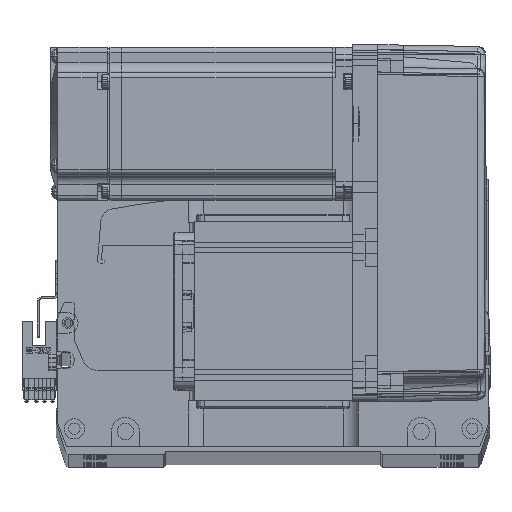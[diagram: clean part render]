
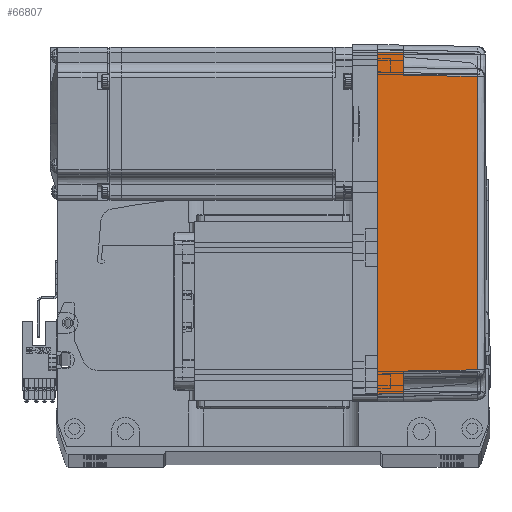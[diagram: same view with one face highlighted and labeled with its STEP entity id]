
A CAD part, top view. The second image highlights one B-rep face of the part: STEP entity #66807.
In plain terms, the highlighted planar face has unit normal (0.018, 0, 1) as drawn and (0, -1, 0.017) by its records, which use the part's own axes.
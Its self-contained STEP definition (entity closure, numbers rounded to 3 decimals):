
#310 = CARTESIAN_POINT ( 'NONE',  ( -57.495, -35.32, 38.985 ) ) ;
#1506 = CARTESIAN_POINT ( 'NONE',  ( 70., -36., 0. ) ) ;
#1602 = DIRECTION ( 'NONE',  ( -0.017, 0.017, 1. ) ) ;
#4483 = LINE ( 'NONE', #36142, #18944 ) ;
#6004 = ORIENTED_EDGE ( 'NONE', *, *, #35946, .T. ) ;
#6329 = VECTOR ( 'NONE', #57676, 1000. ) ;
#7126 = LINE ( 'NONE', #52147, #6329 ) ;
#7457 = VERTEX_POINT ( 'NONE', #53271 ) ;
#8051 = ORIENTED_EDGE ( 'NONE', *, *, #36886, .T. ) ;
#8132 = CARTESIAN_POINT ( 'NONE',  ( 70., -35.825, 10. ) ) ;
#9614 = ORIENTED_EDGE ( 'NONE', *, *, #48913, .T. ) ;
#10385 = VERTEX_POINT ( 'NONE', #53844 ) ;
#11717 = VERTEX_POINT ( 'NONE', #13612 ) ;
#13612 = CARTESIAN_POINT ( 'NONE',  ( 58., -35.825, 10. ) ) ;
#14295 = CARTESIAN_POINT ( 'NONE',  ( -66.959, -35.958, 2.39 ) ) ;
#14522 = DIRECTION ( 'NONE',  ( 0.017, 0.017, 1. ) ) ;
#16289 = FACE_OUTER_BOUND ( 'NONE', #66277, .T. ) ;
#17591 = CARTESIAN_POINT ( 'NONE',  ( 66.826, -35.825, 10. ) ) ;
#18944 = VECTOR ( 'NONE', #30188, 1000. ) ;
#19530 = DIRECTION ( 'NONE',  ( -1., 0., 0. ) ) ;
#20184 = ORIENTED_EDGE ( 'NONE', *, *, #25020, .T. ) ;
#23658 = DIRECTION ( 'NONE',  ( 0., -1., 0.017 ) ) ;
#24600 = VERTEX_POINT ( 'NONE', #310 ) ;
#25020 = EDGE_CURVE ( 'NONE', #24600, #29793, #65543, .T. ) ;
#25084 = CARTESIAN_POINT ( 'NONE',  ( 0., -36., 0. ) ) ;
#25555 = VECTOR ( 'NONE', #41835, 1000. ) ;
#25682 = CARTESIAN_POINT ( 'NONE',  ( 57.495, -35.32, 38.985 ) ) ;
#28511 = LINE ( 'NONE', #8132, #51639 ) ;
#29085 = VECTOR ( 'NONE', #1602, 1000. ) ;
#29793 = VERTEX_POINT ( 'NONE', #39212 ) ;
#30188 = DIRECTION ( 'NONE',  ( -0.017, 0.017, 1. ) ) ;
#32765 = ORIENTED_EDGE ( 'NONE', *, *, #38597, .T. ) ;
#34201 = PLANE ( 'NONE',  #43454 ) ;
#34679 = DIRECTION ( 'NONE',  ( 0., -0.017, -1. ) ) ;
#34986 = ORIENTED_EDGE ( 'NONE', *, *, #35474, .T. ) ;
#35474 = EDGE_CURVE ( 'NONE', #29793, #45737, #7126, .T. ) ;
#35946 = EDGE_CURVE ( 'NONE', #38961, #11717, #28511, .T. ) ;
#36062 = LINE ( 'NONE', #14295, #60935 ) ;
#36142 = CARTESIAN_POINT ( 'NONE',  ( 67., -36., 0. ) ) ;
#36886 = EDGE_CURVE ( 'NONE', #7457, #38961, #4483, .T. ) ;
#37447 = EDGE_CURVE ( 'NONE', #10385, #45737, #36062, .T. ) ;
#38597 = EDGE_CURVE ( 'NONE', #11717, #48286, #70237, .T. ) ;
#38904 = VECTOR ( 'NONE', #67495, 1000. ) ;
#38961 = VERTEX_POINT ( 'NONE', #17591 ) ;
#39212 = CARTESIAN_POINT ( 'NONE',  ( -58., -35.825, 10. ) ) ;
#41835 = DIRECTION ( 'NONE',  ( -1., 0., 0. ) ) ;
#43454 = AXIS2_PLACEMENT_3D ( 'NONE', #1506, #23658, #34679 ) ;
#45737 = VERTEX_POINT ( 'NONE', #45961 ) ;
#45961 = CARTESIAN_POINT ( 'NONE',  ( -66.826, -35.825, 10. ) ) ;
#47941 = CARTESIAN_POINT ( 'NONE',  ( -57.495, -35.32, 38.985 ) ) ;
#48286 = VERTEX_POINT ( 'NONE', #59585 ) ;
#48913 = EDGE_CURVE ( 'NONE', #48286, #24600, #60554, .T. ) ;
#50469 = CARTESIAN_POINT ( 'NONE',  ( -57.495, -35.32, 38.985 ) ) ;
#51555 = ORIENTED_EDGE ( 'NONE', *, *, #63477, .F. ) ;
#51639 = VECTOR ( 'NONE', #19530, 1000. ) ;
#52147 = CARTESIAN_POINT ( 'NONE',  ( 70., -35.825, 10. ) ) ;
#53271 = CARTESIAN_POINT ( 'NONE',  ( 67., -36., 0. ) ) ;
#53844 = CARTESIAN_POINT ( 'NONE',  ( -67., -36., 0. ) ) ;
#57435 = ORIENTED_EDGE ( 'NONE', *, *, #37447, .F. ) ;
#57676 = DIRECTION ( 'NONE',  ( -1., 0., 0. ) ) ;
#59585 = CARTESIAN_POINT ( 'NONE',  ( 57.495, -35.32, 38.985 ) ) ;
#59843 = LINE ( 'NONE', #25084, #25555 ) ;
#60554 = B_SPLINE_CURVE_WITH_KNOTS ( 'NONE', 3,
 ( #25682, #67366, #64488, #47941 ),
 .UNSPECIFIED., .F., .F.,
 ( 4, 4 ),
 ( 0., 1. ),
 .UNSPECIFIED. ) ;
#60935 = VECTOR ( 'NONE', #14522, 1000. ) ;
#62556 = CARTESIAN_POINT ( 'NONE',  ( 58., -35.825, 10. ) ) ;
#63477 = EDGE_CURVE ( 'NONE', #7457, #10385, #59843, .T. ) ;
#64488 = CARTESIAN_POINT ( 'NONE',  ( -19.165, -35.316, 39.181 ) ) ;
#65543 = LINE ( 'NONE', #50469, #38904 ) ;
#66277 = EDGE_LOOP ( 'NONE', ( #8051, #6004, #32765, #9614, #20184, #34986, #57435, #51555 ) ) ;
#66807 = ADVANCED_FACE ( 'NONE', ( #16289 ), #34201, .T. ) ;
#67366 = CARTESIAN_POINT ( 'NONE',  ( 19.165, -35.316, 39.181 ) ) ;
#67495 = DIRECTION ( 'NONE',  ( -0.017, -0.017, -1. ) ) ;
#70237 = LINE ( 'NONE', #62556, #29085 ) ;
